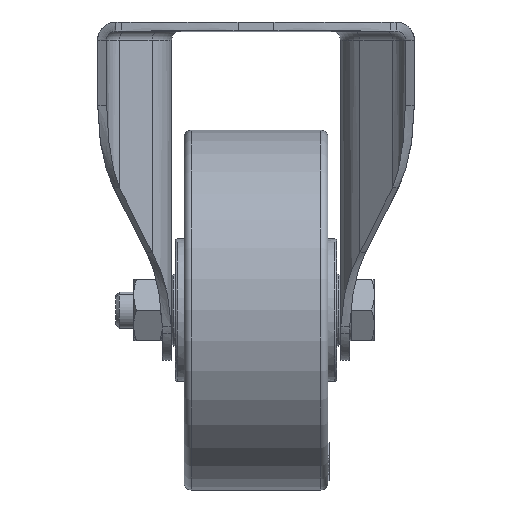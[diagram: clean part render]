
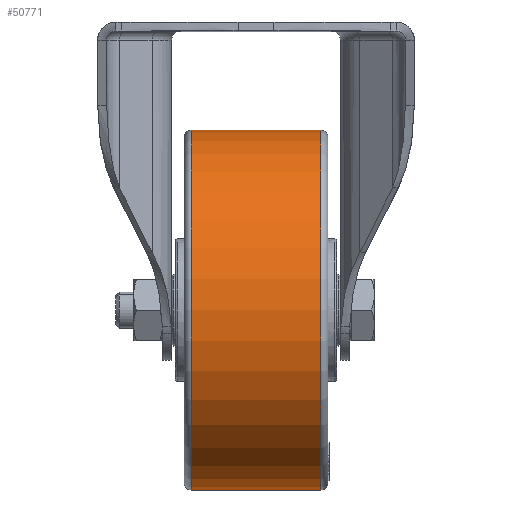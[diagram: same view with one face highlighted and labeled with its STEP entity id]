
A CAD part, top view. The second image highlights one B-rep face of the part: STEP entity #50771.
In plain terms, the highlighted cylindrical face has radius 50.01 mm (diameter 100.02 mm), a partial arc.
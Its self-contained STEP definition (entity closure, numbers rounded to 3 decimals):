
#944 = CARTESIAN_POINT ( 'NONE',  ( 18., -50.01, 0. ) ) ;
#989 = VECTOR ( 'NONE', #32959, 1000. ) ;
#1994 = LINE ( 'NONE', #14788, #989 ) ;
#3433 = ORIENTED_EDGE ( 'NONE', *, *, #73318, .F. ) ;
#6501 = AXIS2_PLACEMENT_3D ( 'NONE', #18374, #56056, #62635 ) ;
#6708 = AXIS2_PLACEMENT_3D ( 'NONE', #72968, #11741, #55189 ) ;
#8064 = CIRCLE ( 'NONE', #6708, 50.01 ) ;
#11741 = DIRECTION ( 'NONE',  ( -1., 0., 0. ) ) ;
#11983 = CYLINDRICAL_SURFACE ( 'NONE', #6501, 50.01 ) ;
#13390 = ORIENTED_EDGE ( 'NONE', *, *, #18172, .T. ) ;
#14788 = CARTESIAN_POINT ( 'NONE',  ( 18., 50.01, 0. ) ) ;
#15085 = VERTEX_POINT ( 'NONE', #944 ) ;
#15615 = DIRECTION ( 'NONE',  ( 0., 1., 0. ) ) ;
#18172 = EDGE_CURVE ( 'NONE', #15085, #51275, #61275, .T. ) ;
#18374 = CARTESIAN_POINT ( 'NONE',  ( -22., 0., 0. ) ) ;
#21867 = DIRECTION ( 'NONE',  ( -1., 0., 0. ) ) ;
#22122 = ORIENTED_EDGE ( 'NONE', *, *, #63303, .T. ) ;
#32959 = DIRECTION ( 'NONE',  ( -1., 0., 0. ) ) ;
#34064 = CARTESIAN_POINT ( 'NONE',  ( 18., 0., 0. ) ) ;
#37009 = CARTESIAN_POINT ( 'NONE',  ( 18., -50.01, 0. ) ) ;
#39119 = CARTESIAN_POINT ( 'NONE',  ( -18., -50.01, 0. ) ) ;
#44124 = CARTESIAN_POINT ( 'NONE',  ( -18., 50.01, 0. ) ) ;
#47959 = EDGE_CURVE ( 'NONE', #53673, #73000, #1994, .T. ) ;
#49821 = FACE_OUTER_BOUND ( 'NONE', #75726, .T. ) ;
#50771 = ADVANCED_FACE ( 'NONE', ( #49821 ), #11983, .T. ) ;
#51275 = VERTEX_POINT ( 'NONE', #39119 ) ;
#52256 = ORIENTED_EDGE ( 'NONE', *, *, #47959, .F. ) ;
#53401 = VECTOR ( 'NONE', #73808, 1000. ) ;
#53673 = VERTEX_POINT ( 'NONE', #78923 ) ;
#55189 = DIRECTION ( 'NONE',  ( 0., 1., 0. ) ) ;
#56056 = DIRECTION ( 'NONE',  ( 1., 0., 0. ) ) ;
#61275 = LINE ( 'NONE', #37009, #53401 ) ;
#62635 = DIRECTION ( 'NONE',  ( 0., -1., 0. ) ) ;
#63303 = EDGE_CURVE ( 'NONE', #53673, #15085, #79797, .T. ) ;
#72008 = AXIS2_PLACEMENT_3D ( 'NONE', #34064, #21867, #15615 ) ;
#72968 = CARTESIAN_POINT ( 'NONE',  ( -18., 0., 0. ) ) ;
#73000 = VERTEX_POINT ( 'NONE', #44124 ) ;
#73318 = EDGE_CURVE ( 'NONE', #73000, #51275, #8064, .T. ) ;
#73808 = DIRECTION ( 'NONE',  ( -1., 0., 0. ) ) ;
#75726 = EDGE_LOOP ( 'NONE', ( #22122, #13390, #3433, #52256 ) ) ;
#78923 = CARTESIAN_POINT ( 'NONE',  ( 18., 50.01, 0. ) ) ;
#79797 = CIRCLE ( 'NONE', #72008, 50.01 ) ;
